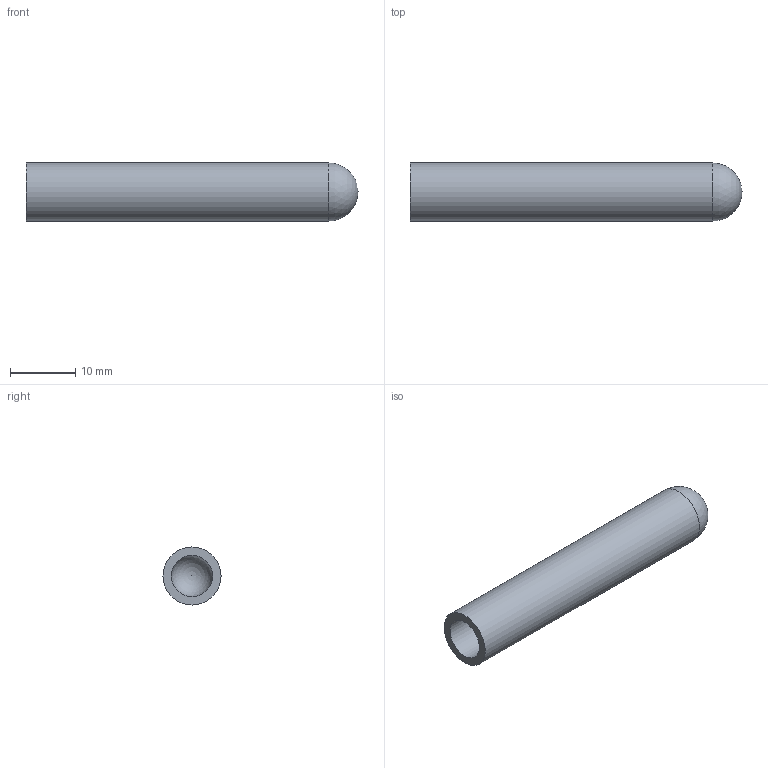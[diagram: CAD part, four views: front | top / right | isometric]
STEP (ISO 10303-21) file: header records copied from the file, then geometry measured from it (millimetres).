
FILE_DESCRIPTION(/* description */ (''),/* implementation_level */ '2;1');
FILE_NAME(/* name */ 'R:\Temp\J. Narvaez\IAN DRAWINGS\002 - Sensors\004 - MCS-TUBE\14-002-B\14-002-B.stp',/* time_stamp */ '2022-11-14T09:43:52-05:00',/* author */ ('mjeter'),/* organization */ ('unknown'),/* preprocessor_version */ 'ST-DEVELOPER v19',/* originating_system */ 'Autodesk Inventor 2023',/* authorisation */ '');
FILE_SCHEMA (('AUTOMOTIVE_DESIGN { 1 0 10303 214 3 1 1 }'));
Length unit declared in the file: inch
Products named in the file (1): 14-002-B
Bounding box: 50.8 x 8.89 x 8.89 mm (x, y, z)
Volume: 1526.2 mm3; surface area: 2437.3 mm2
Topology: 1 solids, 1 shells, 5 faces, 12 edges, 8 vertices
Faces by surface type: sphere 2, cylinder 2, plane 1
Full cylindrical faces by diameter (mm): 6.35 x1, 8.89 x1
Entity records: 198 total; most frequent: DIRECTION 30, CARTESIAN_POINT 24, ORIENTED_EDGE 20, AXIS2_PLACEMENT_3D 14, EDGE_CURVE 10, CIRCLE 8, VERTEX_POINT 8, EDGE_LOOP 6
